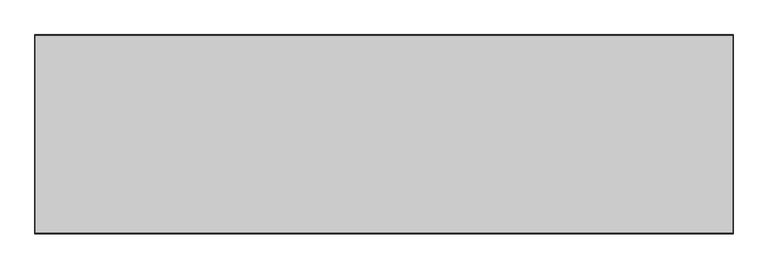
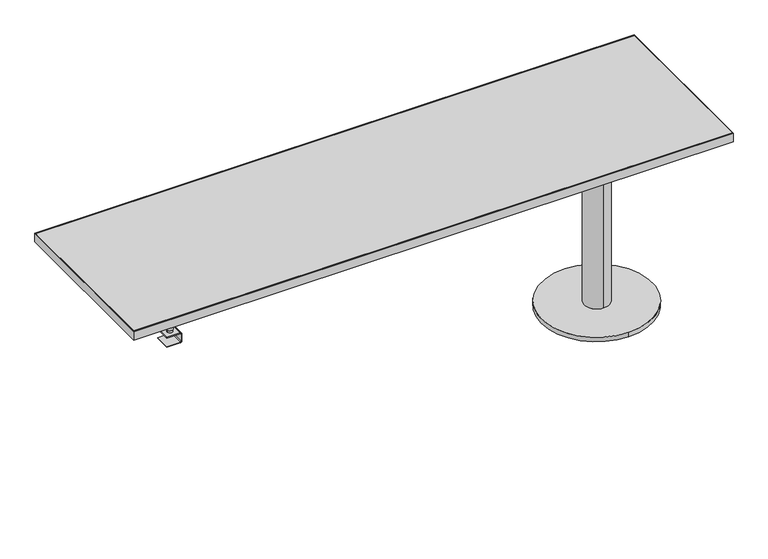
"""IFC4 building model written with IfcOpenShell, lengths in millimetres: furniture geometry, Steelcase Coalesse - Topo - Desktop - Freestanding Straight Ancillary : 84W x 24D - Right - Flat Edge."""

from ifc_helpers import new_model, si_unit, frame, origin, place, context, project, spatial, polyline, circle_curve, outline, extrude, source, transform, mapped, element, save
from ifc_brep_helpers import plane_surface, cylinder_surface, revolved_surface, advanced_brep


def furniture_3ccd9896(model_context):
    return source(origin(), model_context, "Body", "SolidModel", [
        advanced_brep(
        [(1823.974, -501.6500363, 16.8148), (1823.974, -107.9500363, 16.8148), (1823.974, -260.3500363, 16.8148), (1823.974, -349.2500363, 16.8148), (1823.974, -501.6500363, 0.0), (1823.974, -107.9500363, 0.0), (1823.974, -349.2500363, 635.0), (1823.974, -260.3500363, 635.0), (1823.974, -269.8509568, 635.0), (1823.974, -339.7491159, 635.0), (1823.974, -339.7491159, 688.975), (1823.974, -269.8509568, 688.975), (1925.5741938, -203.2000242, 692.15), (1722.3738062, -203.2000242, 692.15), (1722.3738062, -406.4000484, 692.15), (1925.5741938, -406.4000484, 692.15), (1925.5741938, -203.2000242, 688.975), (1925.5741938, -406.4000484, 688.975), (1722.3738062, -406.4000484, 688.975), (1722.3738062, -203.2000242, 688.975)],
        [
            (0, 1, circle_curve(frame((1823.974, -304.8000363, 16.8148), z_axis=(0.0, 0.0, 1.0), x_axis=(0.0, 1.0, 0.0)), 196.85)),
            (1, 0, circle_curve(frame((1823.974, -304.8000363, 16.8148), z_axis=(0.0, 0.0, 1.0), x_axis=(0.0, 1.0, 0.0)), 196.85)),
            (2, 3, circle_curve(frame((1823.974, -304.8000363, 16.8148), z_axis=(0.0, 0.0, -1.0), x_axis=(0.0, 1.0, 0.0)), 44.45)),
            (3, 2, circle_curve(frame((1823.974, -304.8000363, 16.8148), z_axis=(0.0, 0.0, -1.0), x_axis=(0.0, 1.0, 0.0)), 44.45)),
            (4, 5, circle_curve(frame((1823.974, -304.8000363, 0.0), z_axis=(0.0, 0.0, -1.0), x_axis=(0.0, 1.0, 0.0)), 196.85)),
            (5, 4, circle_curve(frame((1823.974, -304.8000363, 0.0), z_axis=(0.0, 0.0, -1.0), x_axis=(0.0, 1.0, 0.0)), 196.85)),
            (0, 4),
            (5, 1),
            (6, 7, circle_curve(frame((1823.974, -304.8000363, 635.0), z_axis=(0.0, 0.0, 1.0), x_axis=(0.0, 1.0, 0.0)), 44.45)),
            (7, 6, circle_curve(frame((1823.974, -304.8000363, 635.0), z_axis=(0.0, 0.0, 1.0), x_axis=(0.0, 1.0, 0.0)), 44.45)),
            (8, 9, circle_curve(frame((1823.974, -304.8000363, 635.0), z_axis=(0.0, 0.0, -1.0), x_axis=(0.0, 1.0, 0.0)), 34.9490796)),
            (9, 8, circle_curve(frame((1823.974, -304.8000363, 635.0), z_axis=(0.0, 0.0, -1.0), x_axis=(0.0, 1.0, 0.0)), 34.9490796)),
            (6, 3),
            (2, 7),
            (10, 9),
            (8, 11),
            (11, 10, circle_curve(frame((1823.974, -304.8000363, 688.975), z_axis=(0.0, 0.0, -1.0), x_axis=(0.0, 1.0, 0.0)), 34.9490796)),
            (10, 11, circle_curve(frame((1823.974, -304.8000363, 688.975), z_axis=(0.0, 0.0, -1.0), x_axis=(0.0, 1.0, 0.0)), 34.9490796)),
            (12, 13),
            (13, 14),
            (14, 15),
            (15, 12),
            (16, 17),
            (17, 18),
            (18, 19),
            (19, 16),
            (12, 16),
            (19, 13),
            (18, 14),
            (17, 15),
        ],
        [
            plane_surface(frame((1823.974, -107.9500363, 16.8148), z_axis=(0.0, 0.0, 1.0), x_axis=(-1.0, 0.0, 0.0))),
            plane_surface(frame((1823.974, -107.9500363, 0.0), z_axis=(0.0, 0.0, -1.0), x_axis=(1.0, 0.0, 0.0))),
            cylinder_surface(frame((1823.974, -304.8000363, 0.0), z_axis=(0.0, 0.0, 1.0), x_axis=(0.0, 1.0, 0.0)), 196.85),
            plane_surface(frame((1823.974, -260.3500363, 635.0), z_axis=(0.0, 0.0, 1.0), x_axis=(-1.0, 0.0, 0.0))),
            cylinder_surface(frame((1823.974, -304.8000363, 0.0), z_axis=(0.0, 0.0, 1.0), x_axis=(0.0, 1.0, 0.0)), 44.45),
            cylinder_surface(frame((1823.974, -304.8000363, 635.0), z_axis=(0.0, 0.0, 1.0), x_axis=(0.0, 1.0, 0.0)), 34.9490796),
            plane_surface(frame((1722.3738062, -203.2000242, 692.15), z_axis=(0.0, 0.0, 1.0), x_axis=(-1.0, 0.0, 0.0))),
            plane_surface(frame((1722.3738062, -203.2000242, 688.975), z_axis=(0.0, 0.0, -1.0), x_axis=(1.0, 0.0, 0.0))),
            plane_surface(frame((1925.5741938, -203.2000242, 692.15), z_axis=(0.0, 1.0, 0.0), x_axis=(0.0, 0.0, -1.0))),
            plane_surface(frame((1722.3738062, -203.2000242, 692.15), z_axis=(-1.0, 0.0, 0.0), x_axis=(0.0, 0.0, -1.0))),
            plane_surface(frame((1722.3738062, -406.4000484, 692.15), z_axis=(0.0, -1.0, 0.0), x_axis=(0.0, 0.0, -1.0))),
            plane_surface(frame((1925.5741938, -406.4000484, 692.15), z_axis=(1.0, 0.0, 0.0), x_axis=(0.0, 0.0, -1.0))),
        ],
        [
            (0, [[1, 2], [3, 4]]),
            (1, [[5, 6]]),
            (2, [[-1, 7, -6, 8]]),
            (2, [[-2, -8, -5, -7]]),
            (3, [[9, 10], [11, 12]]),
            (4, [[-9, 13, -3, 14]]),
            (4, [[-10, -14, -4, -13]]),
            (5, [[15, -11, 16, 17]]),
            (5, [[-15, 18, -16, -12]]),
            (6, [[19, 20, 21, 22]]),
            (7, [[23, 24, 25, 26], [-17, -18]]),
            (8, [[-19, 27, -26, 28]]),
            (9, [[-20, -28, -25, 29]]),
            (10, [[-21, -29, -24, 30]]),
            (11, [[-22, -30, -23, -27]]),
        ],
    ),
        extrude(outline(polyline([(2132.583783, -3.1750242), (2132.583783, -606.4250484), (1.016217, -606.4250484), (1.016217, -3.1750242), (2132.583783, -3.1750242)])), frame((0.0, 0.0, 692.15), z_axis=(0.0, 0.0, 1.0), x_axis=(1.0, 0.0, 0.0)), (0.0, 0.0, 1.0), 31.75),
        extrude(outline(polyline([(2133.6, 0.0), (2133.6, -609.6), (0.0, -609.6), (0.0, 0.0), (2133.6, 0.0)]), holes=[polyline([(2132.583783, -3.1750242), (1.016217, -3.1750242), (1.016217, -606.4250484), (2132.583783, -606.4250484), (2132.583783, -3.1750242)])]), frame((0.0, 0.0, 692.15), z_axis=(0.0, 0.0, 1.0), x_axis=(1.0, 0.0, 0.0)), (0.0, 0.0, 1.0), 31.75),
        extrude(outline(polyline([(-109.2200048, 691.1168589), (-127.2794, 691.1168589), (-127.2794, 682.2694), (-171.1706, 682.2694), (-171.1706, 691.1168589), (-189.2300194, 691.1168589), (-189.2300194, 692.15), (-170.18, 692.15), (-170.18, 683.304655), (-128.27, 683.304655), (-128.27, 692.15), (-109.2200048, 692.15), (-109.2200048, 691.1168589)])), frame((57.0738, 0.0, 0.0), z_axis=(1.0, 0.0, 0.0), x_axis=(0.0, 1.0, 0.0)), (0.0, 0.0, 1.0), 2019.4523581),
        extrude(outline(polyline([(-564.8960426, 691.1168589), (-564.8960426, 692.15), (-545.8460475, 692.15), (-545.8460475, 683.304655), (-503.9360475, 683.304655), (-503.9360475, 692.15), (-484.8860281, 692.15), (-484.8860281, 691.1168589), (-502.9454475, 691.1168589), (-502.9454475, 682.2694), (-546.8366475, 682.2694), (-546.8366475, 691.1168589), (-564.8960426, 691.1168589)])), frame((57.0738, 0.0, 0.0), z_axis=(1.0, 0.0, 0.0), x_axis=(0.0, 1.0, 0.0)), (0.0, 0.0, 1.0), 2019.4523581),
        advanced_brep(
        [(171.4500969, -267.5128138, 692.15), (107.9499031, -267.5128138, 692.15), (107.9499031, -331.0127895, 692.15), (171.4500969, -331.0127895, 692.15), (171.4500969, -267.5128138, 688.975), (171.4500969, -331.0127895, 688.975), (107.9499031, -331.0127895, 688.975), (107.9499031, -267.5128138, 688.975), (139.7, -318.3128016, 688.975), (139.7, -280.2128016, 688.975), (139.7, -318.3128016, 655.6248), (139.7, -280.2128016, 655.6248), (139.7, -310.4626736, 655.6248), (139.7, -288.0629297, 655.6248), (139.7, -310.4626736, 621.2586), (139.7, -288.0629297, 621.2586), (139.7, -314.5105403, 621.2586), (139.7, -284.015063, 621.2586), (139.7, -314.5105403, 615.1626), (139.7, -284.015063, 615.1626), (139.7, -311.9628016, 615.1626), (139.7, -286.5628016, 615.1626), (139.7, -311.9628016, 609.4984), (139.7, -286.5628016, 609.4984)],
        [
            (0, 1),
            (1, 2),
            (2, 3),
            (3, 0),
            (4, 5),
            (5, 6),
            (6, 7),
            (7, 4),
            (8, 9, circle_curve(frame((139.7, -299.2628016, 688.975), z_axis=(0.0, 0.0, 1.0), x_axis=(0.0, 1.0, 0.0)), 19.05)),
            (9, 8, circle_curve(frame((139.7, -299.2628016, 688.975), z_axis=(0.0, 0.0, 1.0), x_axis=(0.0, 1.0, 0.0)), 19.05)),
            (0, 4),
            (7, 1),
            (6, 2),
            (5, 3),
            (10, 11, circle_curve(frame((139.7, -299.2628016, 655.6248), z_axis=(0.0, 0.0, -1.0), x_axis=(0.0, 1.0, 0.0)), 19.05)),
            (11, 10, circle_curve(frame((139.7, -299.2628016, 655.6248), z_axis=(0.0, 0.0, -1.0), x_axis=(0.0, 1.0, 0.0)), 19.05)),
            (12, 13, circle_curve(frame((139.7, -299.2628016, 655.6248), z_axis=(0.0, 0.0, 1.0), x_axis=(0.0, 1.0, 0.0)), 11.1998719)),
            (13, 12, circle_curve(frame((139.7, -299.2628016, 655.6248), z_axis=(0.0, 0.0, 1.0), x_axis=(0.0, 1.0, 0.0)), 11.1998719)),
            (11, 9),
            (8, 10),
            (12, 14),
            (14, 15, circle_curve(frame((139.7, -299.2628016, 621.2586), z_axis=(0.0, 0.0, 1.0), x_axis=(0.0, 1.0, 0.0)), 11.1998719)),
            (15, 13),
            (15, 14, circle_curve(frame((139.7, -299.2628016, 621.2586), z_axis=(0.0, 0.0, 1.0), x_axis=(0.0, 1.0, 0.0)), 11.1998719)),
            (16, 17, circle_curve(frame((139.7, -299.2628016, 621.2586), z_axis=(0.0, 0.0, 1.0), x_axis=(0.0, 1.0, 0.0)), 15.2477387)),
            (17, 16, circle_curve(frame((139.7, -299.2628016, 621.2586), z_axis=(0.0, 0.0, 1.0), x_axis=(0.0, 1.0, 0.0)), 15.2477387)),
            (18, 19, circle_curve(frame((139.7, -299.2628016, 615.1626), z_axis=(0.0, 0.0, -1.0), x_axis=(0.0, 1.0, 0.0)), 15.2477387)),
            (19, 18, circle_curve(frame((139.7, -299.2628016, 615.1626), z_axis=(0.0, 0.0, -1.0), x_axis=(0.0, 1.0, 0.0)), 15.2477387)),
            (20, 21, circle_curve(frame((139.7, -299.2628016, 615.1626), z_axis=(0.0, 0.0, 1.0), x_axis=(0.0, 1.0, 0.0)), 12.7)),
            (21, 20, circle_curve(frame((139.7, -299.2628016, 615.1626), z_axis=(0.0, 0.0, 1.0), x_axis=(0.0, 1.0, 0.0)), 12.7)),
            (16, 18),
            (19, 17),
            (22, 23, circle_curve(frame((139.7, -299.2628016, 609.4984), z_axis=(0.0, 0.0, -1.0), x_axis=(0.0, 1.0, 0.0)), 12.7)),
            (23, 22, circle_curve(frame((139.7, -299.2628016, 609.4984), z_axis=(0.0, 0.0, -1.0), x_axis=(0.0, 1.0, 0.0)), 12.7)),
            (23, 21),
            (20, 22),
        ],
        [
            plane_surface(frame((107.9499031, -267.5128138, 692.15), z_axis=(0.0, 0.0, 1.0), x_axis=(-1.0, 0.0, 0.0))),
            plane_surface(frame((107.9499031, -267.5128138, 688.975), z_axis=(0.0, 0.0, -1.0), x_axis=(1.0, 0.0, 0.0))),
            plane_surface(frame((171.4500969, -267.5128138, 692.15), z_axis=(0.0, 1.0, 0.0), x_axis=(0.0, 0.0, -1.0))),
            plane_surface(frame((107.9499031, -267.5128138, 692.15), z_axis=(-1.0, 0.0, 0.0), x_axis=(0.0, 0.0, -1.0))),
            plane_surface(frame((107.9499031, -331.0127895, 692.15), z_axis=(0.0, -1.0, 0.0), x_axis=(0.0, 0.0, -1.0))),
            plane_surface(frame((171.4500969, -331.0127895, 692.15), z_axis=(1.0, 0.0, 0.0), x_axis=(0.0, 0.0, -1.0))),
            plane_surface(frame((139.7, -280.2128016, 655.6248), z_axis=(0.0, 0.0, -1.0), x_axis=(1.0, 0.0, 0.0))),
            cylinder_surface(frame((139.7, -299.2628016, 655.6248), z_axis=(0.0, 0.0, 1.0), x_axis=(0.0, 1.0, 0.0)), 19.05),
            cylinder_surface(frame((139.7, -299.2628016, 621.2586), z_axis=(0.0, 0.0, 1.0), x_axis=(0.0, 1.0, 0.0)), 11.1998719),
            plane_surface(frame((139.7, -284.015063, 621.2586), z_axis=(0.0, 0.0, 1.0), x_axis=(-1.0, 0.0, 0.0))),
            plane_surface(frame((139.7, -284.015063, 615.1626), z_axis=(0.0, 0.0, -1.0), x_axis=(1.0, 0.0, 0.0))),
            cylinder_surface(frame((139.7, -299.2628016, 615.1626), z_axis=(0.0, 0.0, 1.0), x_axis=(0.0, 1.0, 0.0)), 15.2477387),
            plane_surface(frame((139.7, -286.5628016, 609.4984), z_axis=(0.0, 0.0, -1.0), x_axis=(1.0, 0.0, 0.0))),
            cylinder_surface(frame((139.7, -299.2628016, 609.4984), z_axis=(0.0, 0.0, 1.0), x_axis=(0.0, 1.0, 0.0)), 12.7),
        ],
        [
            (0, [[1, 2, 3, 4]]),
            (1, [[5, 6, 7, 8], [9, 10]]),
            (2, [[-1, 11, -8, 12]]),
            (3, [[-2, -12, -7, 13]]),
            (4, [[-3, -13, -6, 14]]),
            (5, [[-4, -14, -5, -11]]),
            (6, [[15, 16], [17, 18]]),
            (7, [[-16, 19, -9, 20]]),
            (7, [[-15, -20, -10, -19]]),
            (8, [[21, 22, 23, -17]]),
            (8, [[-21, -18, -23, 24]]),
            (9, [[25, 26], [-22, -24]]),
            (10, [[27, 28], [29, 30]]),
            (11, [[-25, 31, -28, 32]]),
            (11, [[-26, -32, -27, -31]]),
            (12, [[33, 34]]),
            (13, [[-34, 35, -29, 36]]),
            (13, [[-33, -36, -30, -35]]),
        ],
    ),
        advanced_brep(
        [(200.6639385, -123.825, 612.0384), (205.7439287, -123.825, 606.9584098), (205.7439287, -123.825, 580.2884171), (200.6639117, -123.825, 575.2084), (152.4041613, -123.825, 575.2084), (152.4041613, -123.825, 577.7484), (200.6641613, -123.825, 577.7484), (203.2039675, -123.825, 580.2882062), (203.2039675, -123.825, 606.9584098), (200.6639773, -123.825, 609.4984), (152.4041613, -123.825, 609.4984), (152.4041613, -123.825, 612.0384), (200.6639385, -549.2750484, 612.0384), (152.4041613, -549.2750484, 612.0384), (152.4041613, -549.2750484, 609.4984), (200.6639773, -549.2750484, 609.4984), (203.2039675, -549.2750484, 606.9584098), (203.2039675, -549.2750484, 580.2882062), (200.6641613, -549.2750484, 577.7484), (152.4041613, -549.2750484, 577.7484), (152.4041613, -549.2750484, 575.2084), (200.6639117, -549.2750484, 575.2084), (205.7439287, -549.2750484, 580.2884171), (205.7439287, -549.2750484, 606.9584098), (152.4041613, -493.3950291, 575.2084), (196.8543551, -493.3950291, 575.2084), (196.8543551, -180.7210184, 575.2084), (152.4041613, -180.7210184, 575.2084), (152.4041613, -180.7210184, 577.7484), (152.4041613, -493.3950291, 577.7484), (196.8543551, -180.7210184, 577.7484), (196.8543551, -493.3950291, 577.7484), (152.4041613, -493.3950291, 609.4984), (196.8543551, -493.3950291, 609.4984), (196.8543551, -180.7210184, 609.4984), (152.4041613, -180.7210184, 609.4984), (152.4041613, -180.7210184, 612.0384), (152.4041613, -493.3950291, 612.0384), (196.8543551, -180.7210184, 612.0384), (196.8543551, -493.3950291, 612.0384), (168.1523551, -150.1981097, 612.0384), (187.4563551, -150.1981097, 612.0384), (168.1523551, -523.9179378, 612.0384), (187.4563551, -523.9179378, 612.0384), (146.0537737, -175.6410959, 682.2694), (209.5543551, -175.6410959, 682.2694), (215.9043551, -169.2910959, 682.2694), (215.9043551, -131.1051235, 682.2694), (208.5135646, -124.840999, 682.2694), (147.0945642, -124.840999, 682.2694), (139.7043551, -131.1910475, 682.2694), (139.7043551, -169.2051719, 682.2694), (146.0537737, -498.4749516, 682.2694), (139.7043551, -504.9108755, 682.2694), (139.7043551, -542.925, 682.2694), (147.0945642, -549.2750484, 682.2694), (208.5135646, -549.2750484, 682.2694), (215.9043551, -543.010924, 682.2694), (215.9043551, -504.8249516, 682.2694), (209.5543551, -498.4749516, 682.2694), (146.0537737, -175.6410959, 679.0944), (139.7043551, -169.2051719, 679.0944), (139.7043551, -131.1910475, 679.0944), (147.0945642, -124.840999, 679.0944), (208.5135646, -124.840999, 679.0944), (215.9043551, -131.1051235, 679.0944), (215.9043551, -169.2910959, 679.0944), (209.5543551, -175.6410959, 679.0944), (166.6283551, -150.1981097, 679.0944), (188.9803551, -150.1981097, 679.0944), (146.0537737, -498.4749516, 679.0944), (209.5543551, -498.4749516, 679.0944), (215.9043551, -504.8249516, 679.0944), (215.9043551, -543.010924, 679.0944), (208.5135646, -549.2750484, 679.0944), (147.0945642, -549.2750484, 679.0944), (139.7043551, -542.925, 679.0944), (139.7043551, -504.9108755, 679.0944), (166.6283551, -523.9179378, 679.0944), (188.9803551, -523.9179378, 679.0944), (187.4563551, -150.1981097, 621.2586), (168.1523551, -150.1981097, 621.2586), (187.4563551, -523.9179378, 621.2586), (168.1523551, -523.9179378, 621.2586), (166.6283551, -150.1981097, 621.2586), (188.9803551, -150.1981097, 621.2586), (166.6283551, -523.9179378, 621.2586), (188.9803551, -523.9179378, 621.2586)],
        [
            (0, 1, circle_curve(frame((200.6639385, -123.825, 606.9584098), z_axis=(0.0, 1.0, 0.0), x_axis=(-1.0, 0.0, 0.0)), 5.0799902)),
            (1, 2),
            (2, 3, circle_curve(frame((200.6639117, -123.825, 580.2884171), z_axis=(0.0, 1.0, 0.0), x_axis=(-1.0, 0.0, 0.0)), 5.0800171)),
            (3, 4),
            (4, 5),
            (5, 6),
            (6, 7, circle_curve(frame((200.6641613, -123.825, 580.2882062), z_axis=(0.0, -1.0, 0.0), x_axis=(-1.0, 0.0, 0.0)), 2.5398062)),
            (7, 8),
            (8, 9, circle_curve(frame((200.6639773, -123.825, 606.9584098), z_axis=(0.0, -1.0, 0.0), x_axis=(-1.0, 0.0, 0.0)), 2.5399902)),
            (9, 10),
            (10, 11),
            (11, 0),
            (12, 13),
            (13, 14),
            (14, 15),
            (15, 16, circle_curve(frame((200.6639773, -549.2750484, 606.9584098), z_axis=(0.0, 1.0, 0.0), x_axis=(-1.0, 0.0, 0.0)), 2.5399902)),
            (16, 17),
            (17, 18, circle_curve(frame((200.6641613, -549.2750484, 580.2882062), z_axis=(0.0, 1.0, 0.0), x_axis=(-1.0, 0.0, 0.0)), 2.5398062)),
            (18, 19),
            (19, 20),
            (20, 21),
            (21, 22, circle_curve(frame((200.6639117, -549.2750484, 580.2884171), z_axis=(0.0, -1.0, 0.0), x_axis=(-1.0, 0.0, 0.0)), 5.0800171)),
            (22, 23),
            (23, 12, circle_curve(frame((200.6639385, -549.2750484, 606.9584098), z_axis=(0.0, -1.0, 0.0), x_axis=(-1.0, 0.0, 0.0)), 5.0799902)),
            (0, 12),
            (23, 1),
            (22, 2),
            (21, 3),
            (20, 24),
            (24, 25),
            (25, 26),
            (26, 27),
            (27, 4),
            (27, 28),
            (28, 5),
            (19, 29),
            (29, 24),
            (28, 30),
            (30, 31),
            (31, 29),
            (18, 6),
            (17, 7),
            (16, 8),
            (15, 9),
            (14, 32),
            (32, 33),
            (33, 34),
            (34, 35),
            (35, 10),
            (35, 36),
            (36, 11),
            (13, 37),
            (37, 32),
            (36, 38),
            (38, 39),
            (39, 37),
            (40, 41, circle_curve(frame((177.8043551, -150.1981097, 612.0384), z_axis=(0.0, 0.0, -1.0), x_axis=(-1.0, 0.0, 0.0)), 9.652)),
            (41, 40, circle_curve(frame((177.8043551, -150.1981097, 612.0384), z_axis=(0.0, 0.0, -1.0), x_axis=(-1.0, 0.0, 0.0)), 9.652)),
            (42, 43, circle_curve(frame((177.8043551, -523.9179378, 612.0384), z_axis=(0.0, 0.0, -1.0), x_axis=(-1.0, 0.0, 0.0)), 9.652)),
            (43, 42, circle_curve(frame((177.8043551, -523.9179378, 612.0384), z_axis=(0.0, 0.0, -1.0), x_axis=(-1.0, 0.0, 0.0)), 9.652)),
            (31, 25),
            (39, 33),
            (26, 30),
            (34, 38),
            (44, 45),
            (45, 46, circle_curve(frame((209.5543551, -169.2910959, 682.2694), z_axis=(0.0, 0.0, 1.0), x_axis=(-1.0, 0.0, 0.0)), 6.35)),
            (46, 47),
            (47, 48, circle_curve(frame((209.5543551, -131.1051235, 682.2694), z_axis=(0.0, 0.0, 1.0), x_axis=(-1.0, 0.0, 0.0)), 6.35)),
            (48, 49),
            (49, 50, circle_curve(frame((146.0537737, -131.1051235, 682.2694), z_axis=(0.0, 0.0, 1.0), x_axis=(-1.0, 0.0, 0.0)), 6.35)),
            (50, 51),
            (51, 44, circle_curve(frame((146.0537737, -169.2910959, 682.2694), z_axis=(0.0, 0.0, 1.0), x_axis=(-1.0, 0.0, 0.0)), 6.35)),
            (52, 53, circle_curve(frame((146.0537737, -504.8249516, 682.2694), z_axis=(0.0, 0.0, 1.0), x_axis=(-1.0, 0.0, 0.0)), 6.35)),
            (53, 54),
            (54, 55, circle_curve(frame((146.0537737, -543.010924, 682.2694), z_axis=(0.0, 0.0, 1.0), x_axis=(-1.0, 0.0, 0.0)), 6.35)),
            (55, 56),
            (56, 57, circle_curve(frame((209.5543551, -543.010924, 682.2694), z_axis=(0.0, 0.0, 1.0), x_axis=(-1.0, 0.0, 0.0)), 6.35)),
            (57, 58),
            (58, 59, circle_curve(frame((209.5543551, -504.8249516, 682.2694), z_axis=(0.0, 0.0, 1.0), x_axis=(-1.0, 0.0, 0.0)), 6.35)),
            (59, 52),
            (60, 61, circle_curve(frame((146.0537737, -169.2910959, 679.0944), z_axis=(0.0, 0.0, -1.0), x_axis=(-1.0, 0.0, 0.0)), 6.35)),
            (61, 62),
            (62, 63, circle_curve(frame((146.0537737, -131.1051235, 679.0944), z_axis=(0.0, 0.0, -1.0), x_axis=(-1.0, 0.0, 0.0)), 6.35)),
            (63, 64),
            (64, 65, circle_curve(frame((209.5543551, -131.1051235, 679.0944), z_axis=(0.0, 0.0, -1.0), x_axis=(-1.0, 0.0, 0.0)), 6.35)),
            (65, 66),
            (66, 67, circle_curve(frame((209.5543551, -169.2910959, 679.0944), z_axis=(0.0, 0.0, -1.0), x_axis=(-1.0, 0.0, 0.0)), 6.35)),
            (67, 60),
            (68, 69, circle_curve(frame((177.8043551, -150.1981097, 679.0944), z_axis=(0.0, 0.0, 1.0), x_axis=(-1.0, 0.0, 0.0)), 11.176)),
            (69, 68, circle_curve(frame((177.8043551, -150.1981097, 679.0944), z_axis=(0.0, 0.0, 1.0), x_axis=(-1.0, 0.0, 0.0)), 11.176)),
            (70, 71),
            (71, 72, circle_curve(frame((209.5543551, -504.8249516, 679.0944), z_axis=(0.0, 0.0, -1.0), x_axis=(-1.0, 0.0, 0.0)), 6.35)),
            (72, 73),
            (73, 74, circle_curve(frame((209.5543551, -543.010924, 679.0944), z_axis=(0.0, 0.0, -1.0), x_axis=(-1.0, 0.0, 0.0)), 6.35)),
            (74, 75),
            (75, 76, circle_curve(frame((146.0537737, -543.010924, 679.0944), z_axis=(0.0, 0.0, -1.0), x_axis=(-1.0, 0.0, 0.0)), 6.35)),
            (76, 77),
            (77, 70, circle_curve(frame((146.0537737, -504.8249516, 679.0944), z_axis=(0.0, 0.0, -1.0), x_axis=(-1.0, 0.0, 0.0)), 6.35)),
            (78, 79, circle_curve(frame((177.8043551, -523.9179378, 679.0944), z_axis=(0.0, 0.0, 1.0), x_axis=(-1.0, 0.0, 0.0)), 11.176)),
            (79, 78, circle_curve(frame((177.8043551, -523.9179378, 679.0944), z_axis=(0.0, 0.0, 1.0), x_axis=(-1.0, 0.0, 0.0)), 11.176)),
            (44, 60),
            (67, 45),
            (66, 46),
            (65, 47),
            (64, 48),
            (63, 49),
            (62, 50),
            (61, 51),
            (52, 70),
            (77, 53),
            (76, 54),
            (75, 55),
            (74, 56),
            (73, 57),
            (72, 58),
            (71, 59),
            (80, 41),
            (40, 81),
            (81, 80, circle_curve(frame((177.8043551, -150.1981097, 621.2586), z_axis=(0.0, 0.0, -1.0), x_axis=(-1.0, 0.0, 0.0)), 9.652)),
            (80, 81, circle_curve(frame((177.8043551, -150.1981097, 621.2586), z_axis=(0.0, 0.0, -1.0), x_axis=(-1.0, 0.0, 0.0)), 9.652)),
            (82, 43),
            (42, 83),
            (83, 82, circle_curve(frame((177.8043551, -523.9179378, 621.2586), z_axis=(0.0, 0.0, -1.0), x_axis=(-1.0, 0.0, 0.0)), 9.652)),
            (82, 83, circle_curve(frame((177.8043551, -523.9179378, 621.2586), z_axis=(0.0, 0.0, -1.0), x_axis=(-1.0, 0.0, 0.0)), 9.652)),
            (84, 85, circle_curve(frame((177.8043551, -150.1981097, 621.2586), z_axis=(0.0, 0.0, -1.0), x_axis=(-1.0, 0.0, 0.0)), 11.176)),
            (85, 84, circle_curve(frame((177.8043551, -150.1981097, 621.2586), z_axis=(0.0, 0.0, -1.0), x_axis=(-1.0, 0.0, 0.0)), 11.176)),
            (86, 87, circle_curve(frame((177.8043551, -523.9179378, 621.2586), z_axis=(0.0, 0.0, -1.0), x_axis=(-1.0, 0.0, 0.0)), 11.176)),
            (87, 86, circle_curve(frame((177.8043551, -523.9179378, 621.2586), z_axis=(0.0, 0.0, -1.0), x_axis=(-1.0, 0.0, 0.0)), 11.176)),
            (85, 69),
            (68, 84),
            (87, 79),
            (78, 86),
        ],
        [
            plane_surface(frame((195.5839483, -123.825, 606.9584098), z_axis=(0.0, 1.0, 0.0), x_axis=(0.0, 0.0, 1.0))),
            plane_surface(frame((195.5839483, -549.2750484, 606.9584098), z_axis=(0.0, -1.0, 0.0), x_axis=(0.0, 0.0, -1.0))),
            cylinder_surface(frame((200.6639385, -549.2750484, 606.9584098), z_axis=(0.0, 1.0, 0.0), x_axis=(-1.0, 0.0, 0.0)), 5.0799902),
            plane_surface(frame((205.7439287, -123.825, 606.9584098), z_axis=(1.0, 0.0, 0.0), x_axis=(0.0, -1.0, 0.0))),
            cylinder_surface(frame((200.6639117, -549.2750484, 580.2884171), z_axis=(0.0, 1.0, 0.0), x_axis=(-1.0, 0.0, 0.0)), 5.0800171),
            plane_surface(frame((200.6639117, -123.825, 575.2084), z_axis=(0.0, 0.0, -1.0), x_axis=(0.0, -1.0, 0.0))),
            plane_surface(frame((152.4041613, -123.825, 575.2084), z_axis=(-1.0, 0.0, 0.0), x_axis=(0.0, -1.0, 0.0))),
            plane_surface(frame((152.4041613, -123.825, 577.7484), z_axis=(0.0, 0.0, 1.0), x_axis=(0.0, -1.0, 0.0))),
            revolved_surface(polyline([(198.1243551, -549.2750484, 580.2882062), (198.1243551, -123.82499999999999, 580.2882062)]), (200.6641613, -549.2750484, 580.2882062), (0.0, -1.0, 0.0)),
            plane_surface(frame((203.2039675, -123.825, 580.2882062), z_axis=(-1.0, 0.0, 0.0), x_axis=(0.0, -1.0, 0.0))),
            revolved_surface(polyline([(198.1239871, -549.2750484, 606.9584098), (198.1239871, -123.82499999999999, 606.9584098)]), (200.6639773, -549.2750484, 606.9584098), (0.0, -1.0, 0.0)),
            plane_surface(frame((200.6639773, -123.825, 609.4984), z_axis=(0.0, 0.0, -1.0), x_axis=(0.0, -1.0, 0.0))),
            plane_surface(frame((152.4041613, -123.825, 609.4984), z_axis=(-1.0, 0.0, 0.0), x_axis=(0.0, -1.0, 0.0))),
            plane_surface(frame((152.4041613, -123.825, 612.0384), z_axis=(0.0, 0.0, 1.0), x_axis=(0.0, -1.0, 0.0))),
            plane_surface(frame((196.8543551, -493.3950291, 575.2084), z_axis=(0.0, 1.0, 0.0), x_axis=(0.0, 0.0, 1.0))),
            plane_surface(frame((152.4041613, -180.7210184, 575.2084), z_axis=(0.0, -1.0, 0.0), x_axis=(0.0, 0.0, 1.0))),
            plane_surface(frame((196.8543551, -180.7210184, 575.2084), z_axis=(-1.0, 0.0, 0.0), x_axis=(0.0, 0.0, 1.0))),
            plane_surface(frame((209.5543551, -175.6410959, 682.2694), z_axis=(0.0, 0.0, 1.0), x_axis=(1.0, 0.0, 0.0))),
            plane_surface(frame((209.5543551, -175.6410959, 679.0944), z_axis=(0.0, 0.0, -1.0), x_axis=(-1.0, 0.0, 0.0))),
            plane_surface(frame((146.0537737, -175.6410959, 682.2694), z_axis=(0.0, -1.0, 0.0), x_axis=(0.0, 0.0, -1.0))),
            cylinder_surface(frame((209.5543551, -169.2910959, 679.0944), z_axis=(0.0, 0.0, 1.0), x_axis=(-1.0, 0.0, 0.0)), 6.35),
            plane_surface(frame((215.9043551, -169.2910959, 682.2694), z_axis=(1.0, 0.0, 0.0), x_axis=(0.0, 0.0, -1.0))),
            cylinder_surface(frame((209.5543551, -131.1051235, 679.0944), z_axis=(0.0, 0.0, 1.0), x_axis=(-1.0, 0.0, 0.0)), 6.35),
            plane_surface(frame((208.5135646, -124.840999, 682.2694), z_axis=(0.0, 1.0, 0.0), x_axis=(0.0, 0.0, -1.0))),
            cylinder_surface(frame((146.0537737, -131.1051235, 679.0944), z_axis=(0.0, 0.0, 1.0), x_axis=(-1.0, 0.0, 0.0)), 6.35),
            plane_surface(frame((139.7043551, -131.1910475, 682.2694), z_axis=(-1.0, 0.0, 0.0), x_axis=(0.0, 0.0, -1.0))),
            cylinder_surface(frame((146.0537737, -169.2910959, 679.0944), z_axis=(0.0, 0.0, 1.0), x_axis=(-1.0, 0.0, 0.0)), 6.35),
            cylinder_surface(frame((146.0537737, -504.8249516, 0.0), z_axis=(0.0, 0.0, 1.0), x_axis=(-1.0, 0.0, 0.0)), 6.35),
            plane_surface(frame((139.7043551, -504.9108755, 682.2694), z_axis=(-1.0, 0.0, 0.0), x_axis=(0.0, 0.0, -1.0))),
            cylinder_surface(frame((146.0537737, -543.010924, 0.0), z_axis=(0.0, 0.0, 1.0), x_axis=(-1.0, 0.0, 0.0)), 6.35),
            plane_surface(frame((147.0945642, -549.2750484, 682.2694), z_axis=(0.0, -1.0, 0.0), x_axis=(0.0, 0.0, -1.0))),
            cylinder_surface(frame((209.5543551, -543.010924, 0.0), z_axis=(0.0, 0.0, 1.0), x_axis=(-1.0, 0.0, 0.0)), 6.35),
            plane_surface(frame((215.9043551, -543.010924, 682.2694), z_axis=(1.0, 0.0, 0.0), x_axis=(0.0, 0.0, -1.0))),
            cylinder_surface(frame((209.5543551, -504.8249516, 0.0), z_axis=(0.0, 0.0, 1.0), x_axis=(-1.0, 0.0, 0.0)), 6.35),
            plane_surface(frame((209.5543551, -498.4749516, 682.2694), z_axis=(0.0, 1.0, 0.0), x_axis=(0.0, 0.0, -1.0))),
            cylinder_surface(frame((177.8043551, -150.1981097, 612.0384), z_axis=(0.0, 0.0, 1.0), x_axis=(-1.0, 0.0, 0.0)), 9.652),
            cylinder_surface(frame((177.8043551, -523.9179378, 0.0), z_axis=(0.0, 0.0, 1.0), x_axis=(-1.0, 0.0, 0.0)), 9.652),
            plane_surface(frame((166.6283551, -150.1981097, 621.2586), z_axis=(0.0, 0.0, -1.0), x_axis=(0.0, 1.0, 0.0))),
            cylinder_surface(frame((177.8043551, -150.1981097, 621.2586), z_axis=(0.0, 0.0, 1.0), x_axis=(-1.0, 0.0, 0.0)), 11.176),
            cylinder_surface(frame((177.8043551, -523.9179378, 0.0), z_axis=(0.0, 0.0, 1.0), x_axis=(-1.0, 0.0, 0.0)), 11.176),
        ],
        [
            (0, [[1, 2, 3, 4, 5, 6, 7, 8, 9, 10, 11, 12]]),
            (1, [[13, 14, 15, 16, 17, 18, 19, 20, 21, 22, 23, 24]]),
            (2, [[-1, 25, -24, 26]]),
            (3, [[-2, -26, -23, 27]]),
            (4, [[-3, -27, -22, 28]]),
            (5, [[-4, -28, -21, 29, 30, 31, 32, 33]]),
            (6, [[-5, -33, 34, 35]]),
            (6, [[-20, 36, 37, -29]]),
            (7, [[-6, -35, 38, 39, 40, -36, -19, 41]]),
            (8, [[-7, -41, -18, 42]]),
            (9, [[-8, -42, -17, 43]]),
            (10, [[-9, -43, -16, 44]]),
            (11, [[-10, -44, -15, 45, 46, 47, 48, 49]]),
            (12, [[-11, -49, 50, 51]]),
            (12, [[-14, 52, 53, -45]]),
            (13, [[-12, -51, 54, 55, 56, -52, -13, -25], [57, 58], [59, 60]]),
            (14, [[61, -30, -37, -40]]),
            (14, [[62, -46, -53, -56]]),
            (15, [[63, -38, -34, -32]]),
            (15, [[64, -54, -50, -48]]),
            (16, [[-61, -39, -63, -31]]),
            (16, [[-62, -55, -64, -47]]),
            (17, [[65, 66, 67, 68, 69, 70, 71, 72]]),
            (17, [[73, 74, 75, 76, 77, 78, 79, 80]]),
            (18, [[81, 82, 83, 84, 85, 86, 87, 88], [89, 90]]),
            (18, [[91, 92, 93, 94, 95, 96, 97, 98], [99, 100]]),
            (19, [[-65, 101, -88, 102]]),
            (20, [[-66, -102, -87, 103]]),
            (21, [[-67, -103, -86, 104]]),
            (22, [[-68, -104, -85, 105]]),
            (23, [[-69, -105, -84, 106]]),
            (24, [[-70, -106, -83, 107]]),
            (25, [[-71, -107, -82, 108]]),
            (26, [[-72, -108, -81, -101]]),
            (27, [[-73, 109, -98, 110]]),
            (28, [[-74, -110, -97, 111]]),
            (29, [[-75, -111, -96, 112]]),
            (30, [[-76, -112, -95, 113]]),
            (31, [[-77, -113, -94, 114]]),
            (32, [[-78, -114, -93, 115]]),
            (33, [[-79, -115, -92, 116]]),
            (34, [[-80, -116, -91, -109]]),
            (35, [[117, -57, 118, 119]]),
            (35, [[-117, 120, -118, -58]]),
            (36, [[121, -59, 122, 123]]),
            (36, [[-121, 124, -122, -60]]),
            (37, [[125, 126], [-119, -120]]),
            (37, [[127, 128], [-123, -124]]),
            (38, [[-126, 129, -89, 130]]),
            (38, [[-125, -130, -90, -129]]),
            (39, [[-128, 131, -99, 132]]),
            (39, [[-127, -132, -100, -131]]),
        ],
    ),
    ])


if __name__ == "__main__":
    model = new_model("IFC4")
    model_context = context("Model", 3, world=origin())
    ifc_project = project(units=[si_unit("LENGTHUNIT", "METRE", prefix="MILLI")], contexts=[model_context])
    site = spatial("IfcSite", under=ifc_project)
    building = spatial("IfcBuilding", under=site)
    placement = place(None, origin())
    furniture_shape = furniture_3ccd9896(model_context)
    element("IfcFurniture", 1, ObjectType="Steelcase Coalesse - Topo - Desktop - Freestanding Straight Ancillary : 84W x 24D - Right - Flat Edge", at=placement, inside=building, context=model_context, shape_type="MappedRepresentation", body=[
        mapped(furniture_shape, transform((0.0, 0.0, 0.0), x_axis=(1.0, 0.0, 0.0), y_axis=(0.0, 1.0, 0.0), z_axis=(0.0, 0.0, 1.0))),
    ])
    save(model, "model.ifc")
